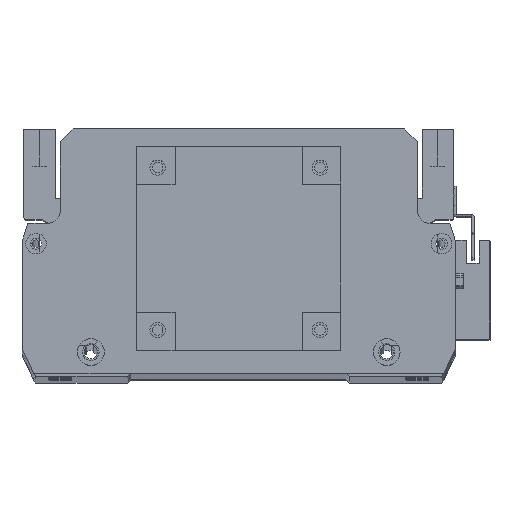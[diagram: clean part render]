
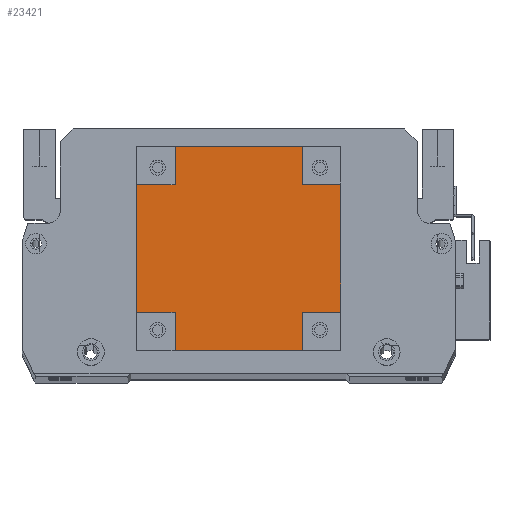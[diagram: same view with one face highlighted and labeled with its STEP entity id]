
A CAD part, top view. The second image highlights one B-rep face of the part: STEP entity #23421.
In plain terms, the highlighted planar face has unit normal (0, 0, 1).
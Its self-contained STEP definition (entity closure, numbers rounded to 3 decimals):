
#434 = VECTOR ( 'NONE', #12364, 1000. ) ;
#536 = EDGE_CURVE ( 'NONE', #17212, #11873, #10183, .T. ) ;
#1189 = LINE ( 'NONE', #20432, #17854 ) ;
#1566 = VERTEX_POINT ( 'NONE', #8421 ) ;
#1690 = CARTESIAN_POINT ( 'NONE',  ( 65., 65., 101.5 ) ) ;
#1765 = VECTOR ( 'NONE', #17526, 1000. ) ;
#1825 = EDGE_LOOP ( 'NONE', ( #14068, #25572, #17983, #3863, #26008, #13324, #2625, #16178, #12785, #21779, #5740, #19320 ) ) ;
#1968 = CARTESIAN_POINT ( 'NONE',  ( 15., 0., 101.5 ) ) ;
#2072 = EDGE_CURVE ( 'NONE', #22807, #17478, #12132, .T. ) ;
#2614 = CARTESIAN_POINT ( 'NONE',  ( 0., 15., 101.5 ) ) ;
#2625 = ORIENTED_EDGE ( 'NONE', *, *, #16884, .T. ) ;
#3046 = VECTOR ( 'NONE', #16300, 1000. ) ;
#3318 = CARTESIAN_POINT ( 'NONE',  ( 0., 0., 101.5 ) ) ;
#3385 = CARTESIAN_POINT ( 'NONE',  ( 15., 80., 101.5 ) ) ;
#3568 = VECTOR ( 'NONE', #6193, 1000. ) ;
#3863 = ORIENTED_EDGE ( 'NONE', *, *, #15760, .T. ) ;
#3869 = CARTESIAN_POINT ( 'NONE',  ( 65., 65., 101.5 ) ) ;
#4168 = VERTEX_POINT ( 'NONE', #1968 ) ;
#4412 = VECTOR ( 'NONE', #5884, 1000. ) ;
#4588 = CARTESIAN_POINT ( 'NONE',  ( 15., 80., 101.5 ) ) ;
#4903 = VECTOR ( 'NONE', #24535, 1000. ) ;
#5264 = VECTOR ( 'NONE', #23825, 1000. ) ;
#5740 = ORIENTED_EDGE ( 'NONE', *, *, #2072, .F. ) ;
#5884 = DIRECTION ( 'NONE',  ( -1., 0., 0. ) ) ;
#6044 = CARTESIAN_POINT ( 'NONE',  ( 80., 15., 101.5 ) ) ;
#6193 = DIRECTION ( 'NONE',  ( 1., 0., 0. ) ) ;
#6501 = CARTESIAN_POINT ( 'NONE',  ( 80., 65., 101.5 ) ) ;
#6770 = VERTEX_POINT ( 'NONE', #13516 ) ;
#7971 = VECTOR ( 'NONE', #12555, 1000. ) ;
#8180 = CARTESIAN_POINT ( 'NONE',  ( 0., 0., 101.5 ) ) ;
#8421 = CARTESIAN_POINT ( 'NONE',  ( 15., 65., 101.5 ) ) ;
#8658 = DIRECTION ( 'NONE',  ( 0., 1., 0. ) ) ;
#9093 = VECTOR ( 'NONE', #20030, 1000. ) ;
#9402 = LINE ( 'NONE', #23428, #10080 ) ;
#10080 = VECTOR ( 'NONE', #8658, 1000. ) ;
#10183 = LINE ( 'NONE', #6044, #4412 ) ;
#10364 = CARTESIAN_POINT ( 'NONE',  ( 65., 80., 101.5 ) ) ;
#10388 = DIRECTION ( 'NONE',  ( -1., 0., 0. ) ) ;
#10689 = CARTESIAN_POINT ( 'NONE',  ( 65., 80., 101.5 ) ) ;
#10829 = CARTESIAN_POINT ( 'NONE',  ( 65., 15., 101.5 ) ) ;
#10972 = AXIS2_PLACEMENT_3D ( 'NONE', #8180, #22979, #10388 ) ;
#11036 = CARTESIAN_POINT ( 'NONE',  ( 0., 80., 101.5 ) ) ;
#11744 = EDGE_CURVE ( 'NONE', #21725, #22807, #13797, .T. ) ;
#11873 = VERTEX_POINT ( 'NONE', #10829 ) ;
#12132 = LINE ( 'NONE', #1690, #434 ) ;
#12160 = LINE ( 'NONE', #22181, #9093 ) ;
#12264 = CARTESIAN_POINT ( 'NONE',  ( 65., 0., 101.5 ) ) ;
#12364 = DIRECTION ( 'NONE',  ( 1., 0., 0. ) ) ;
#12429 = LINE ( 'NONE', #11036, #22884 ) ;
#12555 = DIRECTION ( 'NONE',  ( 0., -1., 0. ) ) ;
#12785 = ORIENTED_EDGE ( 'NONE', *, *, #536, .F. ) ;
#13324 = ORIENTED_EDGE ( 'NONE', *, *, #20972, .F. ) ;
#13430 = LINE ( 'NONE', #4588, #1765 ) ;
#13516 = CARTESIAN_POINT ( 'NONE',  ( 15., 15., 101.5 ) ) ;
#13767 = VERTEX_POINT ( 'NONE', #14910 ) ;
#13797 = LINE ( 'NONE', #10364, #7971 ) ;
#14068 = ORIENTED_EDGE ( 'NONE', *, *, #19427, .T. ) ;
#14168 = CARTESIAN_POINT ( 'NONE',  ( 15., 0., 101.5 ) ) ;
#14910 = CARTESIAN_POINT ( 'NONE',  ( 0., 65., 101.5 ) ) ;
#15272 = LINE ( 'NONE', #3318, #3046 ) ;
#15760 = EDGE_CURVE ( 'NONE', #13767, #23438, #15272, .T. ) ;
#16094 = LINE ( 'NONE', #2614, #5264 ) ;
#16178 = ORIENTED_EDGE ( 'NONE', *, *, #25250, .F. ) ;
#16300 = DIRECTION ( 'NONE',  ( 0., -1., 0. ) ) ;
#16610 = FACE_OUTER_BOUND ( 'NONE', #1825, .T. ) ;
#16884 = EDGE_CURVE ( 'NONE', #4168, #22146, #12160, .T. ) ;
#16946 = CARTESIAN_POINT ( 'NONE',  ( 0., 65., 101.5 ) ) ;
#17088 = LINE ( 'NONE', #14168, #4903 ) ;
#17212 = VERTEX_POINT ( 'NONE', #21183 ) ;
#17478 = VERTEX_POINT ( 'NONE', #6501 ) ;
#17496 = EDGE_CURVE ( 'NONE', #17212, #17478, #9402, .T. ) ;
#17526 = DIRECTION ( 'NONE',  ( 0., 1., 0. ) ) ;
#17854 = VECTOR ( 'NONE', #18524, 1000. ) ;
#17983 = ORIENTED_EDGE ( 'NONE', *, *, #20562, .F. ) ;
#18524 = DIRECTION ( 'NONE',  ( 0., -1., 0. ) ) ;
#18877 = PLANE ( 'NONE',  #10972 ) ;
#19320 = ORIENTED_EDGE ( 'NONE', *, *, #11744, .F. ) ;
#19427 = EDGE_CURVE ( 'NONE', #21725, #26246, #12429, .T. ) ;
#20030 = DIRECTION ( 'NONE',  ( 1., 0., 0. ) ) ;
#20099 = EDGE_CURVE ( 'NONE', #1566, #26246, #13430, .T. ) ;
#20432 = CARTESIAN_POINT ( 'NONE',  ( 65., 0., 101.5 ) ) ;
#20562 = EDGE_CURVE ( 'NONE', #13767, #1566, #25724, .T. ) ;
#20764 = EDGE_CURVE ( 'NONE', #6770, #23438, #16094, .T. ) ;
#20972 = EDGE_CURVE ( 'NONE', #4168, #6770, #17088, .T. ) ;
#21183 = CARTESIAN_POINT ( 'NONE',  ( 80., 15., 101.5 ) ) ;
#21725 = VERTEX_POINT ( 'NONE', #10689 ) ;
#21779 = ORIENTED_EDGE ( 'NONE', *, *, #17496, .T. ) ;
#22146 = VERTEX_POINT ( 'NONE', #12264 ) ;
#22181 = CARTESIAN_POINT ( 'NONE',  ( 0., 0., 101.5 ) ) ;
#22807 = VERTEX_POINT ( 'NONE', #3869 ) ;
#22884 = VECTOR ( 'NONE', #23589, 1000. ) ;
#22979 = DIRECTION ( 'NONE',  ( 0., 0., -1. ) ) ;
#23421 = ADVANCED_FACE ( 'NONE', ( #16610 ), #18877, .F. ) ;
#23428 = CARTESIAN_POINT ( 'NONE',  ( 80., 0., 101.5 ) ) ;
#23438 = VERTEX_POINT ( 'NONE', #27100 ) ;
#23589 = DIRECTION ( 'NONE',  ( -1., 0., 0. ) ) ;
#23825 = DIRECTION ( 'NONE',  ( -1., 0., 0. ) ) ;
#24535 = DIRECTION ( 'NONE',  ( 0., 1., 0. ) ) ;
#25250 = EDGE_CURVE ( 'NONE', #11873, #22146, #1189, .T. ) ;
#25572 = ORIENTED_EDGE ( 'NONE', *, *, #20099, .F. ) ;
#25724 = LINE ( 'NONE', #16946, #3568 ) ;
#26008 = ORIENTED_EDGE ( 'NONE', *, *, #20764, .F. ) ;
#26246 = VERTEX_POINT ( 'NONE', #3385 ) ;
#27100 = CARTESIAN_POINT ( 'NONE',  ( 0., 15., 101.5 ) ) ;
